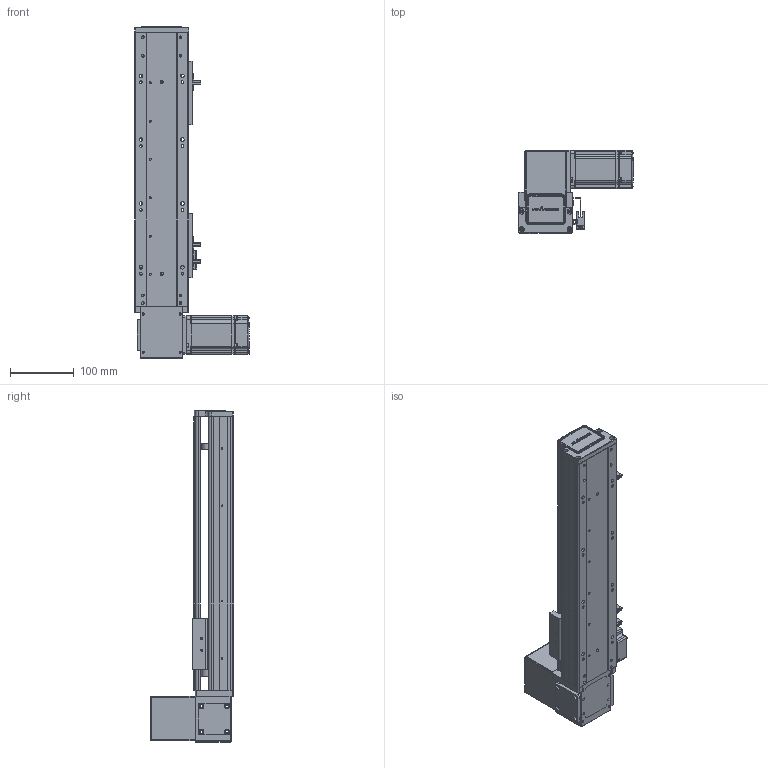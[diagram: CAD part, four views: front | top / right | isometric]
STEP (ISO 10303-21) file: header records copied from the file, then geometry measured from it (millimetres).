
FILE_DESCRIPTION (( 'STEP AP203' ), '1' );
FILE_NAME ('RY80-T-300-UR.SLDASM_250.step', '2021-03-01T02:25:39', ( '盈信电脑' ), ( '东莞市道滘镇水果街19号' ), 'SwSTEP 2.0', 'SolidWorks 2012', '' );
FILE_SCHEMA (( 'CONFIG_CONTROL_DESIGN' ));
Products named in the file (20): RY80-T-300-UR.SLDASM_250; RY80-T萇儂假蚾啣; 1; RY80-T-M4蹟翐2; RY80-T肮祭謫奻殏俋欶; RY80-T翋肮祭謫裔啣; RY100-T粣創揤踡裔; 滅袉蝶18-10; RY80-T-上下折同步轮盖板; RY80-T-翋肮祭謫釱; RY80-T肮祭湍揤輸2; RY80-T肮祭湍揤輸1; RY80-T粣創揤踡輸; 672嫖萇羲壽假蚾釱; 覜茼ん672; RY80俋离覜茼え; RY80-T-300-UR倰第奻裔啣_250; RY80-T綴裔啣; RY80-T肮祭謫臏賑輸; RY80-T-300-UR倰第菁釱_250
Assembly tree (23 placements, depth 2):
  RY80-T-300-UR.SLDASM_250
    RY80-T-300-UR倰第菁釱_250
    RY80-T肮祭謫臏賑輸
    RY80-T-300-UR倰第奻裔啣_250
    RY80-T綴裔啣
    672嫖萇羲壽假蚾釱  x2
    覜茼ん672  x3
    RY80俋离覜茼え
    RY80-T-翋肮祭謫釱
    RY80-T肮祭湍揤輸1
    RY80-T肮祭湍揤輸2
    RY80-T粣創揤踡輸
    滅袉蝶18-10  x2
    RY100-T粣創揤踡裔
    RY80-T翋肮祭謫裔啣
    RY80-T-上下折同步轮盖板
    1
    RY80-T肮祭謫奻殏俋欶
    RY80-T-M4蹟翐2
    RY80-T萇儂假蚾啣
Bounding box: 180 x 130.5 x 520 mm (x, y, z)
Volume: 1220591.1 mm3; surface area: 478626.5 mm2
Topology: 23 solids, 23 shells, 2354 faces, 6448 edges, 4186 vertices
Faces by surface type: plane 1313, cylinder 847, cone 138, bspline 56
Entity records: 73728 total; most frequent: CARTESIAN_POINT 16986, ORIENTED_EDGE 11540, DIRECTION 11014, EDGE_CURVE 5770, VERTEX_POINT 3790, VECTOR 3682, LINE 3682, AXIS2_PLACEMENT_3D 3666
